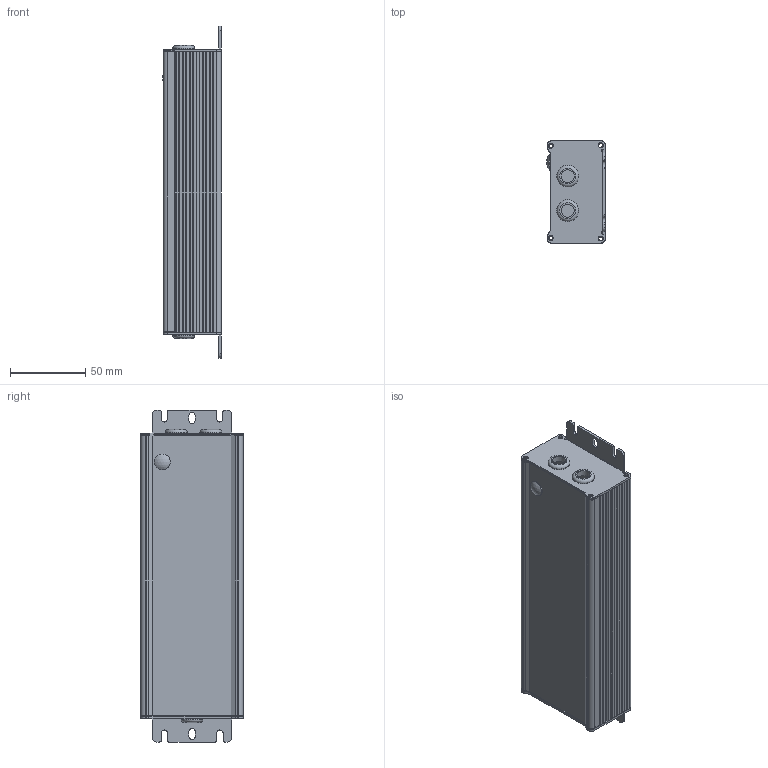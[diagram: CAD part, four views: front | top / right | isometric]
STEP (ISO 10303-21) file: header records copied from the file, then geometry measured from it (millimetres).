
FILE_DESCRIPTION((''),'2;1');
FILE_NAME('W:\mechanical\機構工程圖\3D圖檔\3D Outline-2020\已完成待審核\HLG-120-CB.stp','2020-06-12T08:47:35',('shirley'),(''),'Autodesk Inventor 2010','Autodesk Inventor 2010','');
FILE_SCHEMA(('AUTOMOTIVE_DESIGN { 1 0 10303 214 1 1 1 1 }'));
Length unit declared in the file: millimetre
Products named in the file (14): HLG-120-CAB; ˋ°Ûy; gg; M3-10Lê°˜W.1; 組合61; HLG-120-CA; ¯¥ˆO1; ¯¥ˆO; pcb; RD0801007
Assembly tree (16 placements, depth 3):
  HLG-120-CAB
    ˋ°Ûy
      gg
      M3-10Lê°˜W.1  x4
    組合61
      HLG-120-CA
    ¯¥ˆO1
      ¯¥ˆO1
    ¯¥ˆO
      ¯¥ˆO
    pcb
      pcb
    RD0801007
      RD0801007
Bounding box: 38.99 x 68.12 x 220.8 mm (x, y, z)
Volume: 108044.8 mm3; surface area: 123393.5 mm2
Topology: 10 solids, 10 shells, 274 faces, 723 edges, 488 vertices
Faces by surface type: plane 170, cylinder 94, cone 5, torus 3, bspline 1, sphere 1
Full cylindrical faces by diameter (mm): 3 x5, 3.3 x8, 3.5 x4, 5 x4, 7 x4, 7.807 x1, 7.912 x1, 8.6 x3, 8.9 x1, 10.5 x1, 14.5 x3
Entity records: 8412 total; most frequent: CARTESIAN_POINT 1410, DIRECTION 1401, ORIENTED_EDGE 1294, EDGE_CURVE 647, VECTOR 471, LINE 471, AXIS2_PLACEMENT_3D 465, VERTEX_POINT 452
